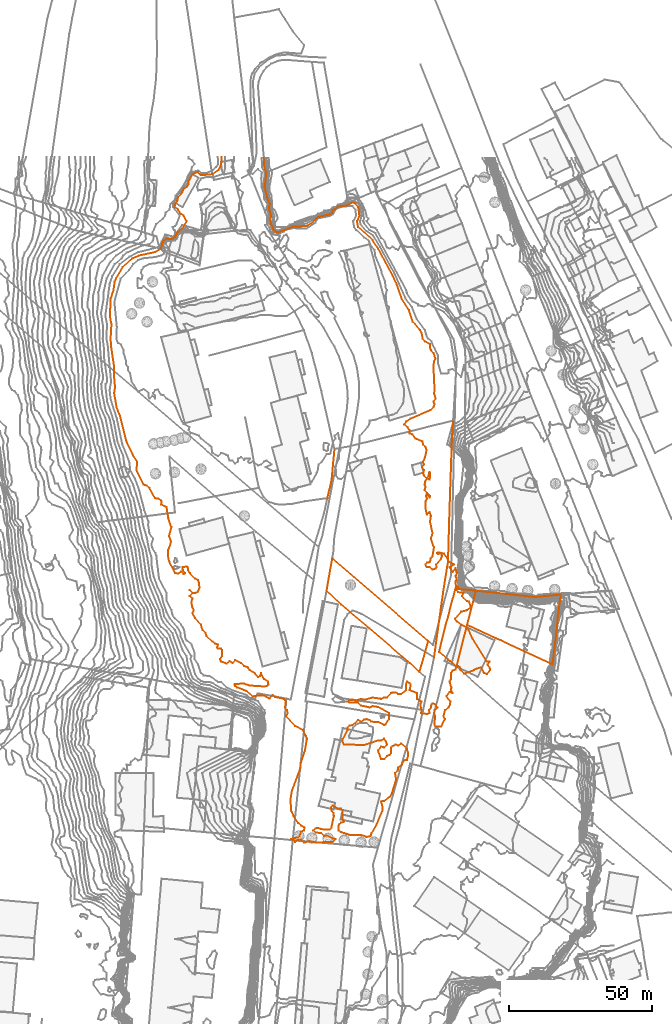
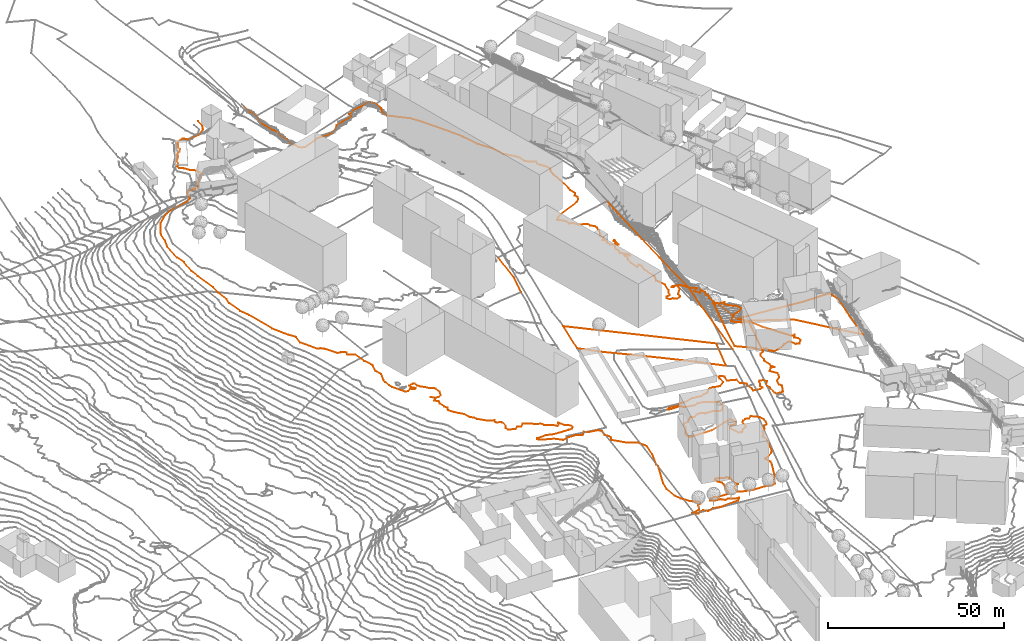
# Not in any storey, part 379 of 419: 6 proxies.
"""IFC2X3 model written with IfcOpenShell, lengths in metres."""

import ifcopenshell
import ifcopenshell.guid

model = None  # the IFC model being written
_history = None  # IfcOwnerHistory: only IFC2X3 demands one
_inside = {}  # id of a spatial element -> (the spatial element, [elements in it])
_under = {}  # id of a project, library or spatial element -> (it, [spatial elements below it])
_declared = {}  # id of a project -> (the project, [libraries it declares])
_typed = {}  # id of a type object -> (the type object, [elements of that type])
_made_of = {}  # id of a material, layer set ... -> (it, [elements and type objects made of it])


def new_model(schema):
    """Start an empty IFC model of exactly this schema.

    Asked for "IFC4X3", IfcOpenShell would pick the latest addendum, in which some entities
    have other attributes; the version numbers below select the first issue.
    IFC2X3 requires an IfcOwnerHistory on every rooted entity: one is made here for all.
    """
    global model, _history
    if schema == "IFC4X3":
        model = ifcopenshell.file(schema_version=(4, 3, 0, 0))
    else:
        model = ifcopenshell.file(schema=schema)
    _inside.clear()
    _under.clear()
    _declared.clear()
    _typed.clear()
    _made_of.clear()
    _history = None
    if model.schema == "IFC2X3":
        org = make("IfcOrganization", Name="unknown")
        user = make(
            "IfcPersonAndOrganization",
            ThePerson=make("IfcPerson", FamilyName="unknown"),
            TheOrganization=org,
        )
        app = make(
            "IfcApplication",
            ApplicationDeveloper=org,
            Version="unknown",
            ApplicationFullName="unknown",
            ApplicationIdentifier="unknown",
        )
        _history = make(
            "IfcOwnerHistory",
            OwningUser=user,
            OwningApplication=app,
            ChangeAction="ADDED",
            CreationDate=0,
        )
    return model


def make(cls, **values):
    """One entity of the class cls with the attributes given. An attribute that is None is left unset."""
    return model.create_entity(
        cls, **{name: value for name, value in values.items() if value is not None}
    )


def entity(cls, *values):
    """Any entity or typed value of the class cls, its attributes in the order of the schema. None: left unset."""
    e = model.create_entity(cls)
    for i, value in enumerate(values):
        if value is not None:
            e[i] = value
    return e


def rooted(cls, **values):
    """An entity with a GlobalId (a new one), such as an element, a storey or a relation."""
    return make(cls, GlobalId=ifcopenshell.guid.new(), OwnerHistory=_history, **values)


def si_unit(unit_type, name, prefix=None):
    """IfcSIUnit, for example si_unit("LENGTHUNIT", "METRE", prefix="MILLI")."""
    return make("IfcSIUnit", UnitType=unit_type, Prefix=prefix, Name=name)


def assignment(units):
    """IfcUnitAssignment: the units of a project."""
    return None if units is None else make("IfcUnitAssignment", Units=units)


def point(xyz):
    """IfcCartesianPoint."""
    return None if xyz is None else make("IfcCartesianPoint", Coordinates=xyz)


def direction(xyz):
    """IfcDirection."""
    return None if xyz is None else make("IfcDirection", DirectionRatios=xyz)


def frame(location, z_axis=None, x_axis=None):
    """IfcAxis2Placement3D, a coordinate frame: its origin and axes. An axis left out is left unset."""
    return make(
        "IfcAxis2Placement3D",
        Location=point(location),
        Axis=direction(z_axis),
        RefDirection=direction(x_axis),
    )


def origin_with_axes():
    """The frame at (0, 0, 0) with the z axis (0, 0, 1) and the x axis (1, 0, 0) written out."""
    return frame((0.0, 0.0, 0.0), z_axis=(0.0, 0.0, 1.0), x_axis=(1.0, 0.0, 0.0))


def place(relative_to, where):
    """IfcLocalPlacement: puts the frame where relative to a parent placement (None: the world)."""
    return make(
        "IfcLocalPlacement", PlacementRelTo=relative_to, RelativePlacement=where
    )


def context(
    kind, dimensions, precision=None, world=None, true_north=None, identifier=None
):
    """IfcGeometricRepresentationContext, for example the 3D "Model" context."""
    return make(
        "IfcGeometricRepresentationContext",
        ContextIdentifier=identifier,
        ContextType=kind,
        CoordinateSpaceDimension=dimensions,
        Precision=precision,
        WorldCoordinateSystem=world,
        TrueNorth=true_north,
    )


def subcontext(parent, identifier, kind, view, scale=None):
    """IfcGeometricRepresentationSubContext, for example "Body" below "Model"."""
    return make(
        "IfcGeometricRepresentationSubContext",
        ContextIdentifier=identifier,
        ContextType=kind,
        ParentContext=parent,
        TargetScale=scale,
        TargetView=view,
    )


def project(units=None, contexts=None):
    """IfcProject with its units and contexts."""
    return rooted(
        "IfcProject",
        Name="project",
        RepresentationContexts=contexts,
        UnitsInContext=assignment(units),
    )


def shape(context_of_items, identifier, shape_type, items):
    """IfcShapeRepresentation: the items that make up one representation, for example the "Body"."""
    return make(
        "IfcShapeRepresentation",
        ContextOfItems=context_of_items,
        RepresentationIdentifier=identifier,
        RepresentationType=shape_type,
        Items=items,
    )


def made_of(thing, what):
    """Note that an element or type object is made of a material, layer set ...; save() writes the relation."""
    if what is not None:
        _made_of.setdefault(what.id(), (what, []))[1].append(thing)
    return thing


def element(
    cls,
    number,
    at=None,
    inside=None,
    cuts=None,
    type_object=None,
    material=None,
    context=None,
    identifier="Body",
    shape_type=None,
    held_by="IfcProductDefinitionShape",
    body=None,
    shapes=None,
    **own,
):
    """One element of the class cls, such as IfcWall. Its Tag is "e" and its number.

    at: its placement. inside: the storey or other place that contains it. cuts: it is an
    opening in that element (IfcRelVoidsElement). A single representation is given by context,
    identifier, shape_type and body (its items); several are given by shapes. held_by: the class
    of the entity that holds the representations. save() writes the other relations.
    """
    e = rooted(cls, Tag="e%d" % number, ObjectPlacement=at, **own)
    if body is not None:
        shapes = [shape(context, identifier, shape_type, body)]
    if shapes is not None:
        e.Representation = make(held_by, Representations=shapes)
    if inside is not None:
        _inside.setdefault(inside.id(), (inside, []))[1].append(e)
    if cuts is not None:
        rooted(
            "IfcRelVoidsElement", RelatingBuildingElement=cuts, RelatedOpeningElement=e
        )
    if type_object is not None:
        _typed.setdefault(type_object.id(), (type_object, []))[1].append(e)
    return made_of(e, material)


def aggregate(whole, parts):
    """IfcRelAggregates: a whole, such as a stair, and the parts it consists of."""
    return rooted("IfcRelAggregates", RelatingObject=whole, RelatedObjects=parts)


def save(model, path):
    """Write the relations noted so far, then the file.

    IfcRelAggregates (storeys below a building ...), IfcRelContainedInSpatialStructure (elements
    in a storey), IfcRelDefinesByType, IfcRelAssociatesMaterial and IfcRelDeclares: one each for
    every whole, place, type object, material and project.
    """
    for whole, parts in _under.values():
        aggregate(whole, parts)
    for where, things in _inside.values():
        rooted(
            "IfcRelContainedInSpatialStructure",
            RelatedElements=things,
            RelatingStructure=where,
        )
    for kind, things in _typed.values():
        rooted("IfcRelDefinesByType", RelatedObjects=things, RelatingType=kind)
    for what, things in _made_of.values():
        rooted("IfcRelAssociatesMaterial", RelatedObjects=things, RelatingMaterial=what)
    for by, libraries in _declared.values():
        rooted("IfcRelDeclares", RelatingContext=by, RelatedDefinitions=libraries)
    model.write(path)


model = new_model("IFC2X3")

# Units and contexts
model_context = context("Model", 3, precision=1e-05, world=origin_with_axes())
body_context = subcontext(model_context, "Body", "Model", "MODEL_VIEW")
ifc_project = project(units=[si_unit("AREAUNIT", "SQUARE_METRE"), si_unit("LENGTHUNIT", "METRE")], contexts=[model_context])

# Proxies
proxy_1_placement = place(None, frame((913.5920204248, 857.3976909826, 98.0), z_axis=(0.0, 0.0, 1.0), x_axis=(1.0, 0.0, 0.0)))
element("IfcBuildingElementProxy", 1, at=proxy_1_placement, Name="Route 167", ObjectType="NOTDEFINED", context=body_context, shape_type="GeometricCurveSet", body=[
    entity("IfcGeometricCurveSet", [entity("IfcPolyline", [entity("IfcCartesianPoint", [6.7, 82.7999999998, -1.2]), entity("IfcCartesianPoint", [6.3, 77.0999999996, -1.2]), entity("IfcCartesianPoint", [5.4, 50.7999999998, -1.0]), entity("IfcCartesianPoint", [4.9, 33.4000000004, -0.7]), entity("IfcCartesianPoint", [3.3, 23.5999999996, -0.5]), entity("IfcCartesianPoint", [0.0, 0.0, 0.0])])]),
])
proxy_2_placement = place(None, frame((876.2920204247, 913.0976909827, 97.0), z_axis=(0.0, 0.0, 1.0), x_axis=(1.0, 0.0, 0.0)))
element("IfcBuildingElementProxy", 2, at=proxy_2_placement, Name="Route 294", ObjectType="NOTDEFINED", context=body_context, shape_type="GeometricCurveSet", body=[
    entity("IfcGeometricCurveSet", [entity("IfcPolyline", [entity("IfcCartesianPoint", [2.5, 17.2000000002, 0.7]), entity("IfcCartesianPoint", [1.5, 6.5, 0.6]), entity("IfcCartesianPoint", [0.0, 0.0, 0.0])])]),
])
proxy_3_placement = place(None, frame((915.3320204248, 859.3076909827, 97.2080935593), z_axis=(0.0, 0.0, 1.0), x_axis=(1.0, 0.0, 0.0)))
element("IfcBuildingElementProxy", 3, at=proxy_3_placement, Name="Cadastre 232", ObjectType="NOTDEFINED", context=body_context, shape_type="GeometricCurveSet", body=[
    entity("IfcGeometricCurveSet", [entity("IfcPolyline", [entity("IfcCartesianPoint", [6.0900000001, -5.21, -0.2855420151]), entity("IfcCartesianPoint", [3.9300000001, -3.2400000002, 0.0242161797]), entity("IfcCartesianPoint", [3.1, -2.6200000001, 0.0661214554]), entity("IfcCartesianPoint", [0.0, 0.0, 0.0]), entity("IfcCartesianPoint", [2.3100000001, 9.4100000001, -0.117874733]), entity("IfcCartesianPoint", [3.22, 12.4299999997, -0.1014856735]), entity("IfcCartesianPoint", [4.01, 15.8200000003, -0.0891191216]), entity("IfcCartesianPoint", [4.79, 18.5700000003, -0.1301966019]), entity("IfcCartesianPoint", [5.74, 22.1399999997, -0.3003944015]), entity("IfcCartesianPoint", [6.6, 22.5999999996, -1.5533710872]), entity("IfcCartesianPoint", [6.5800000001, 21.96, -0.5942586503]), entity("IfcCartesianPoint", [7.54, 21.9400000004, -1.5354763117]), entity("IfcCartesianPoint", [12.9300000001, 21.3899999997, -7.9884145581]), entity("IfcCartesianPoint", [9.8, 9.4400000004, -0.3709131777]), entity("IfcCartesianPoint", [6.3100000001, -4.3700000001, -0.2020447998]), entity("IfcCartesianPoint", [6.0900000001, -5.21, -0.2855420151])])]),
])
proxy_4_placement = place(None, frame((925.1320204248, 868.7476909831, 96.8371803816), z_axis=(0.0, 0.0, 1.0), x_axis=(1.0, 0.0, 0.0)))
element("IfcBuildingElementProxy", 4, at=proxy_4_placement, Name="Cadastre 234", ObjectType="NOTDEFINED", context=body_context, shape_type="GeometricCurveSet", body=[
    entity("IfcGeometricCurveSet", [entity("IfcPolyline", [entity("IfcCartesianPoint", [0.0, 0.0, 0.0]), entity("IfcCartesianPoint", [3.13, 11.9499999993, -7.6175013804]), entity("IfcCartesianPoint", [23.63, 9.7599999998, -7.614016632]), entity("IfcCartesianPoint", [32.78, 10.6099999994, -8.3855004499]), entity("IfcCartesianPoint", [31.8199999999, 3.1399999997, -5.7633614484]), entity("IfcCartesianPoint", [31.36, -1.8100000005, -6.7239006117]), entity("IfcCartesianPoint", [29.86, -13.8300000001, -6.8632616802]), entity("IfcCartesianPoint", [11.66, -5.3600000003, -0.3397631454]), entity("IfcCartesianPoint", [9.95, -4.6500000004, -0.2704605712]), entity("IfcCartesianPoint", [0.0, 0.0, 0.0])])]),
])
proxy_5_placement = place(None, frame((875.9920204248, 880.6176909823, 97.3428389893), z_axis=(0.0, 0.0, 1.0), x_axis=(1.0, 0.0, 0.0)))
element("IfcBuildingElementProxy", 5, at=proxy_5_placement, Name="Cadastre 250", ObjectType="NOTDEFINED", context=body_context, shape_type="GeometricCurveSet", body=[
    entity("IfcGeometricCurveSet", [entity("IfcPolyline", [entity("IfcCartesianPoint", [1.99, 11.3800000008, 0.0576415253]), entity("IfcCartesianPoint", [35.55, -17.5299999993, -0.1792646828]), entity("IfcCartesianPoint", [32.48, -28.4099999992, -0.2400109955]), entity("IfcCartesianPoint", [29.05, -25.1399999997, -0.2846584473]), entity("IfcCartesianPoint", [26.64, -23.1399999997, -0.0917221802]), entity("IfcCartesianPoint", [15.08, -13.1399999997, -0.0772716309]), entity("IfcCartesianPoint", [5.04, -4.7299999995, -0.1357379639]), entity("IfcCartesianPoint", [0.0, 0.0, 0.0]), entity("IfcCartesianPoint", [1.99, 11.3800000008, 0.0576415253])])]),
])
proxy_6_placement = place(None, frame((800.2772024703, 976.8976909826, 97.0), z_axis=(0.0, 0.0, 1.0), x_axis=(1.0, 0.0, 0.0)))
element("IfcBuildingElementProxy", 6, at=proxy_6_placement, Name="Contour 97.0 m", ObjectType="NOTDEFINED", context=body_context, shape_type="GeometricCurveSet", body=[
    entity("IfcGeometricCurveSet", [entity("IfcPolyline", [entity("IfcCartesianPoint", [53.7713413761, 55.5, 0.0]), entity("IfcCartesianPoint", [53.9877909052, 52.0, 0.0]), entity("IfcCartesianPoint", [54.6822222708, 50.0, 0.0]), entity("IfcCartesianPoint", [54.143521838, 45.0, 0.0]), entity("IfcCartesianPoint", [55.102588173, 41.0, 0.0]), entity("IfcCartesianPoint", [55.9931130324, 39.0, 0.0]), entity("IfcCartesianPoint", [55.5989089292, 38.0, 0.0]), entity("IfcCartesianPoint", [56.289104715, 35.0, 0.0]), entity("IfcCartesianPoint", [56.1505830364, 33.0, 0.0]), entity("IfcCartesianPoint", [56.2995105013, 32.0, 0.0]), entity("IfcCartesianPoint", [56.8148179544, 31.3082172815, 0.0]), entity("IfcCartesianPoint", [57.2135114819, 30.0, 0.0]), entity("IfcCartesianPoint", [57.8148179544, 29.4373094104, 0.0]), entity("IfcCartesianPoint", [58.8148179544, 29.092408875, 0.0]), entity("IfcCartesianPoint", [63.8148179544, 31.0753012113, 0.0]), entity("IfcCartesianPoint", [68.8148179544, 31.345133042, 0.0]), entity("IfcCartesianPoint", [70.8148179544, 32.5901643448, 0.0]), entity("IfcCartesianPoint", [72.0256286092, 34.0, 0.0]), entity("IfcCartesianPoint", [72.8148179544, 34.406685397, 0.0]), entity("IfcCartesianPoint", [76.8148179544, 35.409090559, 0.0]), entity("IfcCartesianPoint", [77.8148179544, 35.9141421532, 0.0]), entity("IfcCartesianPoint", [77.8320564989, 37.0, 0.0]), entity("IfcCartesianPoint", [78.8148179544, 37.2720760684, 0.0]), entity("IfcCartesianPoint", [79.8148179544, 38.1674878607, 0.0]), entity("IfcCartesianPoint", [82.8148179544, 38.5304669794, 0.0]), entity("IfcCartesianPoint", [84.8148179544, 39.5616439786, 0.0]), entity("IfcCartesianPoint", [85.8148179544, 39.2213751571, 0.0]), entity("IfcCartesianPoint", [86.8218616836, 38.0, 0.0]), entity("IfcCartesianPoint", [87.230202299, 35.0, 0.0]), entity("IfcCartesianPoint", [86.3954639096, 33.0, 0.0]), entity("IfcCartesianPoint", [86.7671980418, 31.0, 0.0]), entity("IfcCartesianPoint", [91.8148179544, 26.5000020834, 0.0]), entity("IfcCartesianPoint", [93.8148179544, 23.3906253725, 0.0]), entity("IfcCartesianPoint", [98.8834453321, 14.0, 0.0]), entity("IfcCartesianPoint", [100.2939841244, 11.0, 0.0]), entity("IfcCartesianPoint", [102.0092612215, 6.0, 0.0]), entity("IfcCartesianPoint", [104.5516621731, 2.0, 0.0]), entity("IfcCartesianPoint", [105.8995683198, -2.0, 0.0]), entity("IfcCartesianPoint", [108.4497360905, -5.0, 0.0]), entity("IfcCartesianPoint", [108.9887343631, -6.0, 0.0]), entity("IfcCartesianPoint", [109.3665398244, -8.0, 0.0]), entity("IfcCartesianPoint", [110.2190774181, -9.0, 0.0]), entity("IfcCartesianPoint", [111.9588181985, -10.0, 0.0]), entity("IfcCartesianPoint", [111.8609698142, -11.0, 0.0]), entity("IfcCartesianPoint", [112.2412896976, -12.0, 0.0]), entity("IfcCartesianPoint", [113.154622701, -13.0, 0.0]), entity("IfcCartesianPoint", [113.8148188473, -15.0, 0.0]), entity("IfcCartesianPoint", [113.2893951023, -16.0, 0.0]), entity("IfcCartesianPoint", [113.142681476, -18.0, 0.0]), entity("IfcCartesianPoint", [113.532764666, -26.0, 0.0]), entity("IfcCartesianPoint", [113.314820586, -27.0, 0.0]), entity("IfcCartesianPoint", [113.9100525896, -29.0, 0.0]), entity("IfcCartesianPoint", [113.1481371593, -30.0, 0.0]), entity("IfcCartesianPoint", [113.5370236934, -31.0, 0.0]), entity("IfcCartesianPoint", [113.13299662, -32.0, 0.0]), entity("IfcCartesianPoint", [112.108943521, -33.0, 0.0]), entity("IfcCartesianPoint", [105.114810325, -36.0, 0.0]), entity("IfcCartesianPoint", [103.6148281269, -37.0, 0.0]), entity("IfcCartesianPoint", [102.8148679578, -38.0, 0.0]), entity("IfcCartesianPoint", [104.0648656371, -39.0, 0.0]), entity("IfcCartesianPoint", [104.6897941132, -40.0, 0.0]), entity("IfcCartesianPoint", [104.8148179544, -41.1666878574, 0.0]), entity("IfcCartesianPoint", [105.8148179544, -41.4999500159, 0.0]), entity("IfcCartesianPoint", [106.8148304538, -43.0, 0.0]), entity("IfcCartesianPoint", [109.3148679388, -44.0, 0.0]), entity("IfcCartesianPoint", [109.564841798, -45.0, 0.0]), entity("IfcCartesianPoint", [110.4148179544, -46.0, 0.0]), entity("IfcCartesianPoint", [110.6994389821, -47.0, 0.0]), entity("IfcCartesianPoint", [110.0648656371, -50.0, 0.0]), entity("IfcCartesianPoint", [109.4398417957, -51.0, 0.0]), entity("IfcCartesianPoint", [109.8148346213, -52.0, 0.0]), entity("IfcCartesianPoint", [109.1005400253, -53.0, 0.0]), entity("IfcCartesianPoint", [109.8148346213, -54.0, 0.0]), entity("IfcCartesianPoint", [109.4815270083, -55.0, 0.0]), entity("IfcCartesianPoint", [109.8148179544, -55.9999499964, 0.0]), entity("IfcCartesianPoint", [110.8148179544, -56.9999750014, 0.0]), entity("IfcCartesianPoint", [111.4815270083, -56.0, 0.0]), entity("IfcCartesianPoint", [111.5421032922, -55.0, 0.0]), entity("IfcCartesianPoint", [111.8148179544, -54.666666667, 0.0]), entity("IfcCartesianPoint", [111.9814775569, -55.0, 0.0]), entity("IfcCartesianPoint", [111.8148179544, -57.2500476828, 0.0]), entity("IfcCartesianPoint", [110.8148179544, -57.0000249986, 0.0]), entity("IfcCartesianPoint", [110.2433738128, -58.0, 0.0]), entity("IfcCartesianPoint", [110.1004855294, -59.0, 0.0]), entity("IfcCartesianPoint", [110.3148346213, -60.0, 0.0]), entity("IfcCartesianPoint", [110.0648656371, -61.0, 0.0]), entity("IfcCartesianPoint", [111.9966172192, -63.0, 0.0]), entity("IfcCartesianPoint", [111.8148179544, -63.6665818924, 0.0]), entity("IfcCartesianPoint", [110.8148179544, -62.0000500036, 0.0]), entity("IfcCartesianPoint", [110.564841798, -63.0, 0.0]), entity("IfcCartesianPoint", [110.8149179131, -64.0, 0.0]), entity("IfcCartesianPoint", [110.4148484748, -65.0, 0.0]), entity("IfcCartesianPoint", [110.3148346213, -67.0, 0.0]), entity("IfcCartesianPoint", [110.8148179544, -69.4999500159, 0.0]), entity("IfcCartesianPoint", [111.8148179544, -68.6665818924, 0.0]), entity("IfcCartesianPoint", [112.2433738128, -70.0, 0.0]), entity("IfcCartesianPoint", [111.9398417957, -72.0, 0.0]), entity("IfcCartesianPoint", [112.8148262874, -76.0, 0.0]), entity("IfcCartesianPoint", [112.2148332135, -78.0, 0.0]), entity("IfcCartesianPoint", [113.3148346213, -81.0, 0.0]), entity("IfcCartesianPoint", [112.8148379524, -84.0, 0.0]), entity("IfcCartesianPoint", [112.1897941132, -85.0, 0.0]), entity("IfcCartesianPoint", [111.981505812, -86.0, 0.0]), entity("IfcCartesianPoint", [111.8148179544, -86.2500476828, 0.0]), entity("IfcCartesianPoint", [110.8148179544, -86.3334181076, 0.0]), entity("IfcCartesianPoint", [110.3148429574, -87.0, 0.0]), entity("IfcCartesianPoint", [110.8148179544, -87.9999499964, 0.0]), entity("IfcCartesianPoint", [111.8148179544, -87.999966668, 0.0]), entity("IfcCartesianPoint", [112.8148179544, -88.7999694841, 0.0]), entity("IfcCartesianPoint", [113.8148179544, -88.39996948, 0.0]), entity("IfcCartesianPoint", [114.2147874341, -88.0, 0.0]), entity("IfcCartesianPoint", [114.1004855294, -87.0, 0.0]), entity("IfcCartesianPoint", [115.814767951, -85.0, 0.0]), entity("IfcCartesianPoint", [116.0648656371, -84.0, 0.0]), entity("IfcCartesianPoint", [115.8148179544, -83.0000999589, 0.0]), entity("IfcCartesianPoint", [114.8148179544, -83.285667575, 0.0]), entity("IfcCartesianPoint", [114.4148484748, -83.0, 0.0]), entity("IfcCartesianPoint", [114.8148179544, -82.7778060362, 0.0]), entity("IfcCartesianPoint", [115.8149179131, -83.0, 0.0]), entity("IfcCartesianPoint", [116.8148179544, -83.2500476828, 0.0]), entity("IfcCartesianPoint", [117.8148179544, -84.4999749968, 0.0]), entity("IfcCartesianPoint", [118.4813998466, -86.0, 0.0]), entity("IfcCartesianPoint", [120.3148679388, -87.0, 0.0]), entity("IfcCartesianPoint", [118.8148346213, -88.0, 0.0]), entity("IfcCartesianPoint", [119.8148179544, -89.6665818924, 0.0]), entity("IfcCartesianPoint", [120.8148179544, -88.3334181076, 0.0]), entity("IfcCartesianPoint", [121.3148304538, -90.0, 0.0]), entity("IfcCartesianPoint", [120.887985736, -91.0, 0.0]), entity("IfcCartesianPoint", [121.2592718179, -92.0, 0.0]), entity("IfcCartesianPoint", [120.8711573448, -93.0, 0.0]), entity("IfcCartesianPoint", [121.1005291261, -96.0, 0.0]), entity("IfcCartesianPoint", [121.8148179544, -96.714288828, 0.0]), entity("IfcCartesianPoint", [123.648158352, -97.0, 0.0]), entity("IfcCartesianPoint", [123.1005400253, -98.0, 0.0]), entity("IfcCartesianPoint", [124.8148179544, -99.8636426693, 0.0]), entity("IfcCartesianPoint", [125.5647702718, -100.0, 0.0]), entity("IfcCartesianPoint", [126.2433738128, -102.0, 0.0]), entity("IfcCartesianPoint", [124.8148179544, -103.000033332, 0.0]), entity("IfcCartesianPoint", [122.8148179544, -103.5454293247, 0.0]), entity("IfcCartesianPoint", [120.6042895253, -106.0, 0.0]), entity("IfcCartesianPoint", [121.3703829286, -107.0, 0.0]), entity("IfcCartesianPoint", [122.8148179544, -108.1249821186, 0.0]), entity("IfcCartesianPoint", [124.7147950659, -109.0, 0.0]), entity("IfcCartesianPoint", [125.4814846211, -110.0, 0.0]), entity("IfcCartesianPoint", [126.8148322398, -113.0, 0.0]), entity("IfcCartesianPoint", [131.8148179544, -120.9999800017, 0.0]), entity("IfcCartesianPoint", [132.8148379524, -121.0, 0.0]), entity("IfcCartesianPoint", [132.0148484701, -122.0, 0.0]), entity("IfcCartesianPoint", [132.8148179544, -122.9999750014, 0.0]), entity("IfcCartesianPoint", [132.9259479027, -124.0, 0.0]), entity("IfcCartesianPoint", [131.8148179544, -125.3334181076, 0.0]), entity("IfcCartesianPoint", [130.814767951, -125.0, 0.0]), entity("IfcCartesianPoint", [129.8148179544, -123.000033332, 0.0]), entity("IfcCartesianPoint", [127.8148179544, -123.5000499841, 0.0]), entity("IfcCartesianPoint", [127.3148679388, -124.0, 0.0]), entity("IfcCartesianPoint", [123.8148179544, -125.1666454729, 0.0]), entity("IfcCartesianPoint", [122.6330186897, -124.0, 0.0]), entity("IfcCartesianPoint", [122.481467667, -123.0, 0.0]), entity("IfcCartesianPoint", [121.8148179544, -122.4736778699, 0.0]), entity("IfcCartesianPoint", [121.0455826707, -123.0, 0.0]), entity("IfcCartesianPoint", [120.8148179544, -123.7499523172, 0.0]), entity("IfcCartesianPoint", [119.8148179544, -124.1428882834, 0.0]), entity("IfcCartesianPoint", [119.2693886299, -125.0, 0.0]), entity("IfcCartesianPoint", [119.2315005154, -127.0, 0.0]), entity("IfcCartesianPoint", [118.8148322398, -128.0, 0.0]), entity("IfcCartesianPoint", [119.3703829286, -130.0, 0.0]), entity("IfcCartesianPoint", [119.3148304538, -131.0, 0.0]), entity("IfcCartesianPoint", [119.8148429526, -132.0, 0.0]), entity("IfcCartesianPoint", [118.8148179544, -131.5714441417, 0.0]), entity("IfcCartesianPoint", [117.6719296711, -133.0, 0.0]), entity("IfcCartesianPoint", [119.0647941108, -135.0, 0.0]), entity("IfcCartesianPoint", [118.9057459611, -136.0, 0.0]), entity("IfcCartesianPoint", [118.4148484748, -137.0, 0.0]), entity("IfcCartesianPoint", [117.1481512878, -138.0, 0.0]), entity("IfcCartesianPoint", [116.6481300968, -140.0, 0.0]), entity("IfcCartesianPoint", [117.1273298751, -141.0, 0.0]), entity("IfcCartesianPoint", [115.8148179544, -143.6667090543, 0.0]), entity("IfcCartesianPoint", [113.8148179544, -143.6250238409, 0.0]), entity("IfcCartesianPoint", [113.4576517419, -143.0, 0.0]), entity("IfcCartesianPoint", [113.7036880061, -140.0, 0.0]), entity("IfcCartesianPoint", [113.3862620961, -139.0, 0.0]), entity("IfcCartesianPoint", [113.564841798, -138.0, 0.0]), entity("IfcCartesianPoint", [114.4815270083, -137.0, 0.0]), entity("IfcCartesianPoint", [113.8148179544, -136.0000249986, 0.0]), entity("IfcCartesianPoint", [112.8148179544, -135.5714441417, 0.0]), entity("IfcCartesianPoint", [112.3862620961, -136.0, 0.0]), entity("IfcCartesianPoint", [112.2147874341, -137.0, 0.0]), entity("IfcCartesianPoint", [111.5647702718, -138.0, 0.0]), entity("IfcCartesianPoint", [111.8148179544, -139.0000999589, 0.0]), entity("IfcCartesianPoint", [110.8148179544, -139.3334181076, 0.0]), entity("IfcCartesianPoint", [108.8148179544, -139.0000500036, 0.0]), entity("IfcCartesianPoint", [108.981505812, -138.0, 0.0]), entity("IfcCartesianPoint", [108.5291503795, -136.0, 0.0]), entity("IfcCartesianPoint", [108.981505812, -135.0, 0.0]), entity("IfcCartesianPoint", [107.3147929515, -134.0, 0.0]), entity("IfcCartesianPoint", [107.3147679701, -132.0, 0.0]), entity("IfcCartesianPoint", [104.8148179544, -131.0000500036, 0.0]), entity("IfcCartesianPoint", [105.1482360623, -129.0, 0.0]), entity("IfcCartesianPoint", [104.8148179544, -128.5000499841, 0.0]), entity("IfcCartesianPoint", [103.8148179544, -128.0000083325, 0.0]), entity("IfcCartesianPoint", [103.4814775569, -129.0, 0.0]), entity("IfcCartesianPoint", [103.5648179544, -131.0, 0.0]), entity("IfcCartesianPoint", [101.8148179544, -132.285667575, 0.0]), entity("IfcCartesianPoint", [100.8148179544, -132.2500476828, 0.0]), entity("IfcCartesianPoint", [99.8148179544, -131.75, 0.0]), entity("IfcCartesianPoint", [98.8148179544, -131.8571117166, 0.0]), entity("IfcCartesianPoint", [98.3148679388, -132.0, 0.0]), entity("IfcCartesianPoint", [96.8148179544, -133.5000166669, 0.0]), entity("IfcCartesianPoint", [95.8148179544, -133.5000499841, 0.0]), entity("IfcCartesianPoint", [94.8148179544, -134.000033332, 0.0]), entity("IfcCartesianPoint", [91.8148179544, -133.5714441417, 0.0]), entity("IfcCartesianPoint", [88.8148179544, -134.3332909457, 0.0]), entity("IfcCartesianPoint", [87.8148179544, -134.0000249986, 0.0]), entity("IfcCartesianPoint", [85.8148179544, -134.6665818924, 0.0]), entity("IfcCartesianPoint", [84.8148179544, -134.3334181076, 0.0]), entity("IfcCartesianPoint", [83.8148179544, -134.4285558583, 0.0]), entity("IfcCartesianPoint", [83.0148484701, -135.0, 0.0]), entity("IfcCartesianPoint", [83.8148179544, -135.2857220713, 0.0]), entity("IfcCartesianPoint", [86.8148179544, -135.285667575, 0.0]), entity("IfcCartesianPoint", [87.8148179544, -136.39996948, 0.0]), entity("IfcCartesianPoint", [90.8148179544, -136.9999833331, 0.0]), entity("IfcCartesianPoint", [91.8148179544, -136.5833174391, 0.0]), entity("IfcCartesianPoint", [93.8148179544, -136.8571117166, 0.0]), entity("IfcCartesianPoint", [97.5647702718, -139.0, 0.0]), entity("IfcCartesianPoint", [97.5647702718, -141.0, 0.0]), entity("IfcCartesianPoint", [96.3148679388, -143.0, 0.0]), entity("IfcCartesianPoint", [95.8148179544, -143.1000228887, 0.0]), entity("IfcCartesianPoint", [93.8148179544, -142.1176483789, 0.0]), entity("IfcCartesianPoint", [91.353288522, -142.0, 0.0]), entity("IfcCartesianPoint", [90.8148179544, -141.4615294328, 0.0]), entity("IfcCartesianPoint", [89.8148179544, -141.1093746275, 0.0]), entity("IfcCartesianPoint", [88.8148179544, -141.3030239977, 0.0]), entity("IfcCartesianPoint", [87.8148179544, -142.0294134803, 0.0]), entity("IfcCartesianPoint", [86.8148179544, -141.3750089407, 0.0]), entity("IfcCartesianPoint", [84.8148179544, -143.1489351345, 0.0]), entity("IfcCartesianPoint", [83.8148179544, -143.3939379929, 0.0]), entity("IfcCartesianPoint", [83.1481512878, -144.0, 0.0]), entity("IfcCartesianPoint", [83.0648211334, -145.0, 0.0]), entity("IfcCartesianPoint", [81.4177642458, -148.0, 0.0]), entity("IfcCartesianPoint", [81.3898241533, -149.0, 0.0]), entity("IfcCartesianPoint", [81.7845086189, -150.0, 0.0]), entity("IfcCartesianPoint", [88.8148179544, -150.1363596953, 0.0]), entity("IfcCartesianPoint", [93.8148179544, -148.5416600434, 0.0]), entity("IfcCartesianPoint", [94.8148179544, -148.5217434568, 0.0]), entity("IfcCartesianPoint", [95.8148179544, -147.9714223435, 0.0]), entity("IfcCartesianPoint", [96.564841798, -149.0, 0.0]), entity("IfcCartesianPoint", [96.8149179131, -150.0, 0.0]), entity("IfcCartesianPoint", [95.8148679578, -151.0, 0.0]), entity("IfcCartesianPoint", [94.8148179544, -150.6667090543, 0.0]), entity("IfcCartesianPoint", [93.7036880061, -152.0, 0.0]), entity("IfcCartesianPoint", [94.8148179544, -154.9999499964, 0.0]), entity("IfcCartesianPoint", [95.8148179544, -155.1428882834, 0.0]), entity("IfcCartesianPoint", [96.8148179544, -153.999966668, 0.0]), entity("IfcCartesianPoint", [97.8148179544, -153.60003052, 0.0]), entity("IfcCartesianPoint", [98.2433738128, -153.0, 0.0]), entity("IfcCartesianPoint", [98.3147679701, -151.0, 0.0]), entity("IfcCartesianPoint", [98.8148179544, -150.4999500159, 0.0]), entity("IfcCartesianPoint", [99.8148179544, -149.999966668, 0.0]), entity("IfcCartesianPoint", [100.8148179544, -150.3332909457, 0.0]), entity("IfcCartesianPoint", [101.8148179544, -149.6250238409, 0.0]), entity("IfcCartesianPoint", [103.8148179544, -151.3332909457, 0.0]), entity("IfcCartesianPoint", [104.3148304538, -153.0, 0.0]), entity("IfcCartesianPoint", [104.2433738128, -154.0, 0.0]), entity("IfcCartesianPoint", [103.8148179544, -155.3334181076, 0.0]), entity("IfcCartesianPoint", [102.8148179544, -155.5000499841, 0.0]), entity("IfcCartesianPoint", [102.0648656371, -157.0, 0.0]), entity("IfcCartesianPoint", [100.8148429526, -158.0, 0.0]), entity("IfcCartesianPoint", [100.6481300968, -159.0, 0.0]), entity("IfcCartesianPoint", [99.7238899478, -160.0, 0.0]), entity("IfcCartesianPoint", [100.0756817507, -162.0, 0.0]), entity("IfcCartesianPoint", [98.6148057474, -167.0, 0.0]), entity("IfcCartesianPoint", [97.8148179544, -168.2666700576, 0.0]), entity("IfcCartesianPoint", [95.8148179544, -169.6665818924, 0.0]), entity("IfcCartesianPoint", [94.8148179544, -169.857166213, 0.0]), entity("IfcCartesianPoint", [95.4030506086, -172.0, 0.0]), entity("IfcCartesianPoint", [95.2592529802, -173.0, 0.0]), entity("IfcCartesianPoint", [93.2148179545, -178.0, 0.0]), entity("IfcCartesianPoint", [91.4338551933, -181.0, 0.0]), entity("IfcCartesianPoint", [91.167748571, -182.0, 0.0]), entity("IfcCartesianPoint", [89.8148179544, -182.3103393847, 0.0]), entity("IfcCartesianPoint", [87.8148179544, -181.6818213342, 0.0]), entity("IfcCartesianPoint", [83.8148179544, -181.5666692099, 0.0]), entity("IfcCartesianPoint", [80.8148179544, -180.6470693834, 0.0]), entity("IfcCartesianPoint", [79.898167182, -180.0, 0.0]), entity("IfcCartesianPoint", [80.0290958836, -178.0, 0.0]), entity("IfcCartesianPoint", [80.8148179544, -177.3124955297, 0.0]), entity("IfcCartesianPoint", [81.8148079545, -177.0, 0.0]), entity("IfcCartesianPoint", [81.4148179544, -176.0, 0.0]), entity("IfcCartesianPoint", [81.3148096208, -173.0, 0.0]), entity("IfcCartesianPoint", [80.8148179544, -172.4000152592, 0.0]), entity("IfcCartesianPoint", [79.8148179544, -172.3636426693, 0.0]), entity("IfcCartesianPoint", [77.8148179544, -171.3636426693, 0.0]), entity("IfcCartesianPoint", [77.2315005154, -172.0, 0.0]), entity("IfcCartesianPoint", [77.4990327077, -173.0, 0.0]), entity("IfcCartesianPoint", [78.1898060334, -174.0, 0.0]), entity("IfcCartesianPoint", [78.2854114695, -175.0, 0.0]), entity("IfcCartesianPoint", [77.4148128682, -179.0, 0.0]), entity("IfcCartesianPoint", [76.8148179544, -179.750007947, 0.0]), entity("IfcCartesianPoint", [73.8148179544, -179.6000061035, 0.0]), entity("IfcCartesianPoint", [72.8148179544, -179.142833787, 0.0]), entity("IfcCartesianPoint", [71.8148179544, -179.2999923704, 0.0]), entity("IfcCartesianPoint", [71.0370119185, -180.0, 0.0]), entity("IfcCartesianPoint", [71.8148179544, -180.7000076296, 0.0]), entity("IfcCartesianPoint", [73.8148179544, -180.9999900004, 0.0]), entity("IfcCartesianPoint", [74.8148179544, -181.9999833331, 0.0]), entity("IfcCartesianPoint", [75.8148179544, -181.7272853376, 0.0]), entity("IfcCartesianPoint", [77.8148179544, -182.7778060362, 0.0]), entity("IfcCartesianPoint", [78.8148512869, -183.0, 0.0]), entity("IfcCartesianPoint", [77.8148179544, -184.0000050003, 0.0]), entity("IfcCartesianPoint", [71.8148179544, -184.2941255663, 0.0]), entity("IfcCartesianPoint", [69.8148179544, -183.7778060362, 0.0]), entity("IfcCartesianPoint", [67.8148179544, -184.2727146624, 0.0]), entity("IfcCartesianPoint", [66.8148179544, -183.2221939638, 0.0]), entity("IfcCartesianPoint", [65.8148179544, -183.3636426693, 0.0]), entity("IfcCartesianPoint", [64.8148179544, -184.0000047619, 0.0]), entity("IfcCartesianPoint", [63.3981353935, -183.0, 0.0]), entity("IfcCartesianPoint", [65.8148179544, -182.4285558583, 0.0]), entity("IfcCartesianPoint", [66.2433738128, -182.0, 0.0]), entity("IfcCartesianPoint", [66.8148179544, -180.39996948, 0.0]), entity("IfcCartesianPoint", [67.814767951, -180.0, 0.0]), entity("IfcCartesianPoint", [68.0648656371, -179.0, 0.0]), entity("IfcCartesianPoint", [66.8148179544, -178.3334181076, 0.0]), entity("IfcCartesianPoint", [65.8148179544, -177.3636426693, 0.0]), entity("IfcCartesianPoint", [64.2265853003, -175.0, 0.0]), entity("IfcCartesianPoint", [63.3862620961, -173.0, 0.0]), entity("IfcCartesianPoint", [63.1225147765, -169.0, 0.0]), entity("IfcCartesianPoint", [63.6609695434, -166.0, 0.0]), entity("IfcCartesianPoint", [66.314813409, -159.0, 0.0]), entity("IfcCartesianPoint", [66.6296243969, -158.0, 0.0]), entity("IfcCartesianPoint", [66.5734404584, -157.0, 0.0]), entity("IfcCartesianPoint", [68.1784606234, -152.0, 0.0]), entity("IfcCartesianPoint", [68.8532873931, -148.0, 0.0]), entity("IfcCartesianPoint", [68.5767157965, -147.0, 0.0]), entity("IfcCartesianPoint", [67.4814987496, -145.0, 0.0]), entity("IfcCartesianPoint", [64.8148179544, -143.4444538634, 0.0]), entity("IfcCartesianPoint", [61.6148484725, -140.0, 0.0]), entity("IfcCartesianPoint", [62.1481512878, -139.0, 0.0]), entity("IfcCartesianPoint", [61.9398417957, -138.0, 0.0]), entity("IfcCartesianPoint", [61.2433738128, -137.0, 0.0]), entity("IfcCartesianPoint", [61.5023060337, -135.0, 0.0]), entity("IfcCartesianPoint", [60.8148179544, -134.0000090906, 0.0]), entity("IfcCartesianPoint", [57.8148179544, -133.3793112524, 0.0]), entity("IfcCartesianPoint", [56.8148179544, -132.5999999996, 0.0]), entity("IfcCartesianPoint", [55.8148179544, -133.9130564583, 0.0]), entity("IfcCartesianPoint", [53.8148179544, -132.8648576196, 0.0]), entity("IfcCartesianPoint", [51.8148179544, -132.8000101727, 0.0]), entity("IfcCartesianPoint", [49.8148179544, -133.1506850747, 0.0]), entity("IfcCartesianPoint", [47.8148179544, -131.3164553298, 0.0]), entity("IfcCartesianPoint", [44.4301935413, -130.0, 0.0]), entity("IfcCartesianPoint", [43.8148179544, -129.5000062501, 0.0]), entity("IfcCartesianPoint", [43.5795211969, -129.0, 0.0]), entity("IfcCartesianPoint", [43.8148179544, -128.7647032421, 0.0]), entity("IfcCartesianPoint", [46.8148179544, -128.7142960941, 0.0]), entity("IfcCartesianPoint", [48.8148179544, -129.3478289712, 0.0]), entity("IfcCartesianPoint", [53.8148179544, -129.6956579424, 0.0]), entity("IfcCartesianPoint", [54.8148179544, -129.5714441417, 0.0]), entity("IfcCartesianPoint", [55.3862620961, -129.0, 0.0]), entity("IfcCartesianPoint", [55.2147874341, -128.0, 0.0]), entity("IfcCartesianPoint", [53.8147846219, -127.0, 0.0]), entity("IfcCartesianPoint", [52.8148179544, -125.0000999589, 0.0]), entity("IfcCartesianPoint", [52.4813998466, -126.0, 0.0]), entity("IfcCartesianPoint", [51.8148179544, -126.39996948, 0.0]), entity("IfcCartesianPoint", [50.8148179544, -125.1666878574, 0.0]), entity("IfcCartesianPoint", [48.8148179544, -124.0000249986, 0.0]), entity("IfcCartesianPoint", [48.3147679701, -123.0, 0.0]), entity("IfcCartesianPoint", [46.8148179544, -122.5000166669, 0.0]), entity("IfcCartesianPoint", [45.8148179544, -121.5000250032, 0.0]), entity("IfcCartesianPoint", [43.8148179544, -120.5000499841, 0.0]), entity("IfcCartesianPoint", [42.8148179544, -121.5000250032, 0.0]), entity("IfcCartesianPoint", [41.8148179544, -120.8333121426, 0.0]), entity("IfcCartesianPoint", [40.8148179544, -121.6665818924, 0.0]), entity("IfcCartesianPoint", [38.8148179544, -121.0000199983, 0.0]), entity("IfcCartesianPoint", [38.4815270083, -120.0, 0.0]), entity("IfcCartesianPoint", [39.1482360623, -119.0, 0.0]), entity("IfcCartesianPoint", [39.1482360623, -117.0, 0.0]), entity("IfcCartesianPoint", [38.8148179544, -116.5000499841, 0.0]), entity("IfcCartesianPoint", [37.8148179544, -116.3334181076, 0.0]), entity("IfcCartesianPoint", [37.4813998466, -116.0, 0.0]), entity("IfcCartesianPoint", [37.8147179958, -115.0, 0.0]), entity("IfcCartesianPoint", [36.8148179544, -114.7499523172, 0.0]), entity("IfcCartesianPoint", [35.8148179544, -114.000033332, 0.0]), entity("IfcCartesianPoint", [33.8147979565, -112.0, 0.0]), entity("IfcCartesianPoint", [33.4148484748, -111.0, 0.0]), entity("IfcCartesianPoint", [32.4148484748, -110.0, 0.0]), entity("IfcCartesianPoint", [31.8148179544, -108.0000999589, 0.0]), entity("IfcCartesianPoint", [29.8148179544, -105.7499523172, 0.0]), entity("IfcCartesianPoint", [28.8148179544, -104.0000249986, 0.0]), entity("IfcCartesianPoint", [29.3147929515, -103.0, 0.0]), entity("IfcCartesianPoint", [28.8147929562, -102.0, 0.0]), entity("IfcCartesianPoint", [28.4813998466, -100.0, 0.0]), entity("IfcCartesianPoint", [28.8147929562, -99.0, 0.0]), entity("IfcCartesianPoint", [27.8147846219, -98.0, 0.0]), entity("IfcCartesianPoint", [28.814767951, -97.0, 0.0]), entity("IfcCartesianPoint", [27.814767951, -96.0, 0.0]), entity("IfcCartesianPoint", [28.8148179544, -96.9999499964, 0.0]), entity("IfcCartesianPoint", [29.8148179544, -96.9999000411, 0.0]), entity("IfcCartesianPoint", [30.8148179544, -96.4999500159, 0.0]), entity("IfcCartesianPoint", [31.3147679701, -95.0, 0.0]), entity("IfcCartesianPoint", [31.0648656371, -93.0, 0.0]), entity("IfcCartesianPoint", [30.8148179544, -92.5000499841, 0.0]), entity("IfcCartesianPoint", [29.8148179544, -92.0000999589, 0.0]), entity("IfcCartesianPoint", [27.9577062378, -90.0, 0.0]), entity("IfcCartesianPoint", [27.3148012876, -89.0, 0.0]), entity("IfcCartesianPoint", [27.2147874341, -88.0, 0.0]), entity("IfcCartesianPoint", [26.8148179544, -87.714332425, 0.0]), entity("IfcCartesianPoint", [25.3148679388, -88.0, 0.0]), entity("IfcCartesianPoint", [25.4813998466, -89.0, 0.0]), entity("IfcCartesianPoint", [26.3148679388, -90.0, 0.0]), entity("IfcCartesianPoint", [25.8148179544, -90.3334181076, 0.0]), entity("IfcCartesianPoint", [24.8148179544, -89.5000250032, 0.0]), entity("IfcCartesianPoint", [23.8148179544, -90.2000305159, 0.0]), entity("IfcCartesianPoint", [22.8148179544, -90.0000199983, 0.0]), entity("IfcCartesianPoint", [20.8148179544, -86.2000305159, 0.0]), entity("IfcCartesianPoint", [20.4301935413, -85.0, 0.0]), entity("IfcCartesianPoint", [20.314805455, -83.0, 0.0]), entity("IfcCartesianPoint", [20.3862620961, -82.0, 0.0]), entity("IfcCartesianPoint", [21.3862620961, -79.0, 0.0]), entity("IfcCartesianPoint", [20.6481300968, -77.0, 0.0]), entity("IfcCartesianPoint", [21.4815270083, -74.0, 0.0]), entity("IfcCartesianPoint", [20.4148484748, -71.0, 0.0]), entity("IfcCartesianPoint", [19.8147846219, -67.0, 0.0]), entity("IfcCartesianPoint", [17.8148179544, -66.0000249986, 0.0]), entity("IfcCartesianPoint", [18.1004855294, -65.0, 0.0]), entity("IfcCartesianPoint", [17.8148179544, -64.60003052, 0.0]), entity("IfcCartesianPoint", [16.8148179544, -64.0000076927, 0.0]), entity("IfcCartesianPoint", [15.8148179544, -63.8571117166, 0.0]), entity("IfcCartesianPoint", [13.8148179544, -60.3332909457, 0.0]), entity("IfcCartesianPoint", [12.8148179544, -59.4285558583, 0.0]), entity("IfcCartesianPoint", [11.8148179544, -59.1111299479, 0.0]), entity("IfcCartesianPoint", [9.2592718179, -54.0, 0.0]), entity("IfcCartesianPoint", [9.5539541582, -51.0, 0.0]), entity("IfcCartesianPoint", [8.1481418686, -49.0, 0.0]), entity("IfcCartesianPoint", [5.8148179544, -44.1110922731, 0.0]), entity("IfcCartesianPoint", [3.510472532, -35.0, 0.0]), entity("IfcCartesianPoint", [2.3073593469, -32.0, 0.0]), entity("IfcCartesianPoint", [1.486694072, -27.0, 0.0]), entity("IfcCartesianPoint", [1.7770883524, -25.0, 0.0]), entity("IfcCartesianPoint", [1.4312557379, -21.0, 0.0]), entity("IfcCartesianPoint", [1.4882835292, -18.0, 0.0]), entity("IfcCartesianPoint", [0.461875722, -11.0, 0.0]), entity("IfcCartesianPoint", [0.2246536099, -8.0, 0.0]), entity("IfcCartesianPoint", [0.5225071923, -3.0, 0.0]), entity("IfcCartesianPoint", [0.0, 0.0, 0.0]), entity("IfcCartesianPoint", [0.272649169, 6.0, 0.0]), entity("IfcCartesianPoint", [1.2351076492, 9.0, 0.0]), entity("IfcCartesianPoint", [1.6792225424, 12.0, 0.0]), entity("IfcCartesianPoint", [2.0728872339, 13.0, 0.0]), entity("IfcCartesianPoint", [4.4427166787, 17.0, 0.0]), entity("IfcCartesianPoint", [7.7458510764, 20.0, 0.0]), entity("IfcCartesianPoint", [10.0875326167, 21.0, 0.0]), entity("IfcCartesianPoint", [15.8148179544, 22.2328755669, 0.0]), entity("IfcCartesianPoint", [17.8148179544, 23.4795914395, 0.0]), entity("IfcCartesianPoint", [18.5013260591, 26.0, 0.0]), entity("IfcCartesianPoint", [18.8148179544, 26.3319335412, 0.0]), entity("IfcCartesianPoint", [19.8148179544, 26.8768332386, 0.0]), entity("IfcCartesianPoint", [21.8148179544, 26.8047054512, 0.0]), entity("IfcCartesianPoint", [22.8148179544, 27.549999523, 0.0]), entity("IfcCartesianPoint", [23.4419354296, 29.0, 0.0]), entity("IfcCartesianPoint", [25.6672812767, 31.0, 0.0]), entity("IfcCartesianPoint", [26.8148129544, 33.0, 0.0]), entity("IfcCartesianPoint", [25.7740083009, 35.0, 0.0]), entity("IfcCartesianPoint", [24.8148179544, 35.5802501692, 0.0]), entity("IfcCartesianPoint", [23.8148179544, 37.1372537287, 0.0]), entity("IfcCartesianPoint", [22.6464495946, 38.0, 0.0]), entity("IfcCartesianPoint", [22.7069031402, 39.0, 0.0]), entity("IfcCartesianPoint", [23.4925041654, 40.0, 0.0]), entity("IfcCartesianPoint", [23.8148179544, 41.4534873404, 0.0]), entity("IfcCartesianPoint", [25.2693613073, 43.0, 0.0]), entity("IfcCartesianPoint", [25.8148179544, 44.3642868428, 0.0]), entity("IfcCartesianPoint", [26.8148179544, 45.0465097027, 0.0]), entity("IfcCartesianPoint", [27.5217142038, 46.0, 0.0]), entity("IfcCartesianPoint", [27.5328794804, 47.0, 0.0]), entity("IfcCartesianPoint", [28.8148179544, 49.4774193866, 0.0]), entity("IfcCartesianPoint", [30.8148179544, 50.223528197, 0.0]), entity("IfcCartesianPoint", [31.8148179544, 49.0873019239, 0.0]), entity("IfcCartesianPoint", [35.8148179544, 49.4819284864, 0.0]), entity("IfcCartesianPoint", [37.9776078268, 51.0, 0.0]), entity("IfcCartesianPoint", [38.9170868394, 53.0, 0.0]), entity("IfcCartesianPoint", [39.0385013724, 55.5, 0.0])])]),
])

save(model, "model.ifc")
